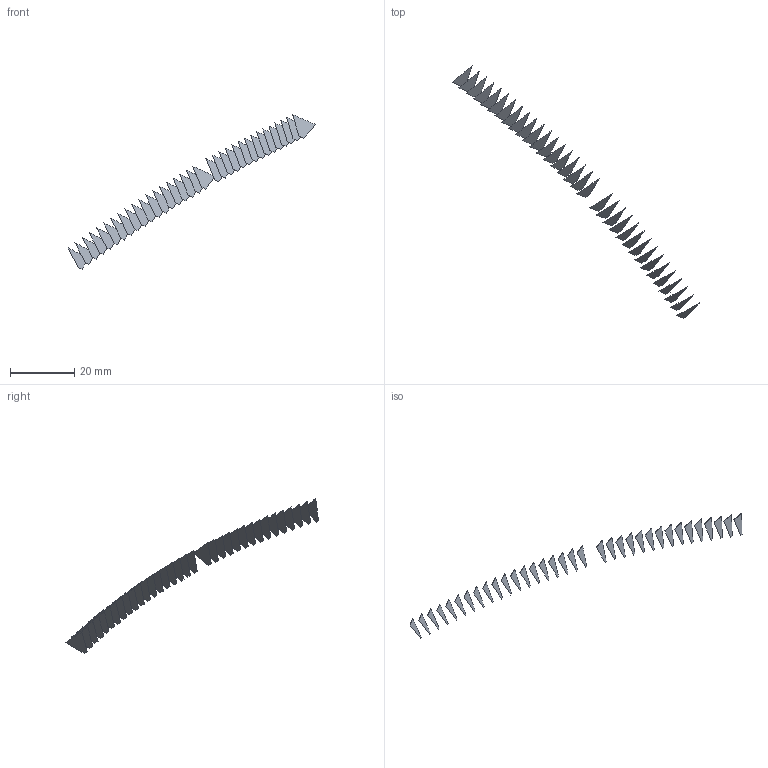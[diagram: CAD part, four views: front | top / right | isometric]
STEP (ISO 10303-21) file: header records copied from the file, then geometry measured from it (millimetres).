
FILE_DESCRIPTION(('FreeCAD Model'),'2;1');
FILE_NAME('Open CASCADE Shape Model','2022-05-22T07:50:31',('FreeCAD'),( 'FreeCAD'),'Open CASCADE STEP processor 7.5','FreeCAD','Unknown');
FILE_SCHEMA(('AUTOMOTIVE_DESIGN { 1 0 10303 214 1 1 1 1 }'));
Length unit declared in the file: millimetre
Products named in the file (35): Open CASCADE STEP translator 7.5 58; Open CASCADE STEP translator 7.5 58.1; Open CASCADE STEP translator 7.5 58.2; Open CASCADE STEP translator 7.5 58.3; Open CASCADE STEP translator 7.5 58.4; Open CASCADE STEP translator 7.5 58.5; Open CASCADE STEP translator 7.5 58.6; Open CASCADE STEP translator 7.5 58.7; Open CASCADE STEP translator 7.5 58.8; Open CASCADE STEP translator 7.5 58.9; Open CASCADE STEP translator 7.5 58.10; Open CASCADE STEP translator 7.5 58.11; Open CASCADE STEP translator 7.5 58.12; Open CASCADE STEP translator 7.5 58.13; Open CASCADE STEP translator 7.5 58.14; Open CASCADE STEP translator 7.5 58.15; Open CASCADE STEP translator 7.5 58.16; Open CASCADE STEP translator 7.5 58.17; Open CASCADE STEP translator 7.5 58.18; Open CASCADE STEP translator 7.5 58.19; Open CASCADE STEP translator 7.5 58.20; Open CASCADE STEP translator 7.5 58.21; Open CASCADE STEP translator 7.5 58.22; Open CASCADE STEP translator 7.5 58.23; Open CASCADE STEP translator 7.5 58.24; Open CASCADE STEP translator 7.5 58.25; Open CASCADE STEP translator 7.5 58.26; Open CASCADE STEP translator 7.5 58.27; Open CASCADE STEP translator 7.5 58.28; Open CASCADE STEP translator 7.5 58.29; Open CASCADE STEP translator 7.5 58.30; Open CASCADE STEP translator 7.5 58.31; Open CASCADE STEP translator 7.5 58.32; Open CASCADE STEP translator 7.5 58.33; Open CASCADE STEP translator 7.5 58.34
Assembly tree (34 placements, depth 2):
  Open CASCADE STEP translator 7.5 58
    Open CASCADE STEP translator 7.5 58.1
    Open CASCADE STEP translator 7.5 58.2
    Open CASCADE STEP translator 7.5 58.3
    Open CASCADE STEP translator 7.5 58.4
    Open CASCADE STEP translator 7.5 58.5
    Open CASCADE STEP translator 7.5 58.6
    Open CASCADE STEP translator 7.5 58.7
    Open CASCADE STEP translator 7.5 58.8
    Open CASCADE STEP translator 7.5 58.9
    Open CASCADE STEP translator 7.5 58.10
    Open CASCADE STEP translator 7.5 58.11
    Open CASCADE STEP translator 7.5 58.12
    Open CASCADE STEP translator 7.5 58.13
    Open CASCADE STEP translator 7.5 58.14
    Open CASCADE STEP translator 7.5 58.15
    Open CASCADE STEP translator 7.5 58.16
    Open CASCADE STEP translator 7.5 58.17
    Open CASCADE STEP translator 7.5 58.18
    Open CASCADE STEP translator 7.5 58.19
    Open CASCADE STEP translator 7.5 58.20
    Open CASCADE STEP translator 7.5 58.21
    Open CASCADE STEP translator 7.5 58.22
    Open CASCADE STEP translator 7.5 58.23
    Open CASCADE STEP translator 7.5 58.24
    Open CASCADE STEP translator 7.5 58.25
    Open CASCADE STEP translator 7.5 58.26
    Open CASCADE STEP translator 7.5 58.27
    Open CASCADE STEP translator 7.5 58.28
    Open CASCADE STEP translator 7.5 58.29
    Open CASCADE STEP translator 7.5 58.30
    Open CASCADE STEP translator 7.5 58.31
    Open CASCADE STEP translator 7.5 58.32
    Open CASCADE STEP translator 7.5 58.33
    Open CASCADE STEP translator 7.5 58.34
Bounding box: 77.29 x 78.91 x 48.26 mm (x, y, z)
Surface area: 1090.7 mm2 (no closed solid volume)
Topology: 0 solids, 34 shells, 34 faces, 617 edges, 617 vertices
Faces by surface type: bspline 34
Entity records: 8989 total; most frequent: CARTESIAN_POINT 3256, B_SPLINE_CURVE_WITH_KNOTS 1234, ORIENTED_EDGE 617, EDGE_CURVE 617, VERTEX_POINT 617, SURFACE_CURVE 617, PCURVE 617, DEFINITIONAL_REPRESENTATION 617
